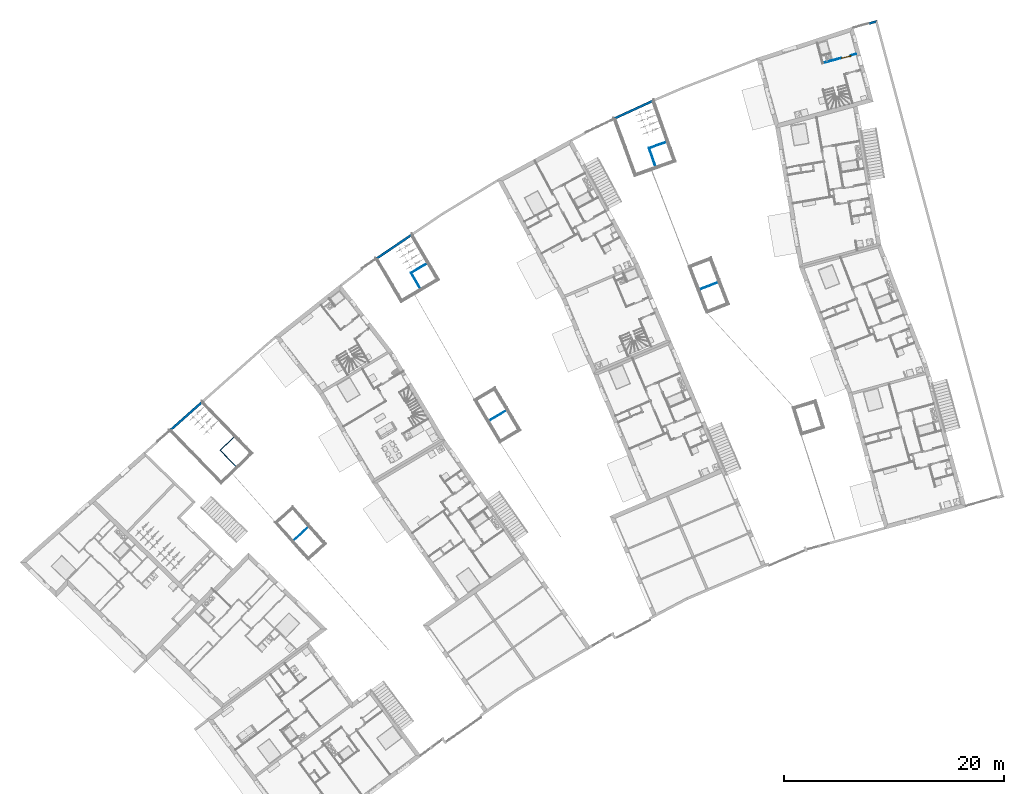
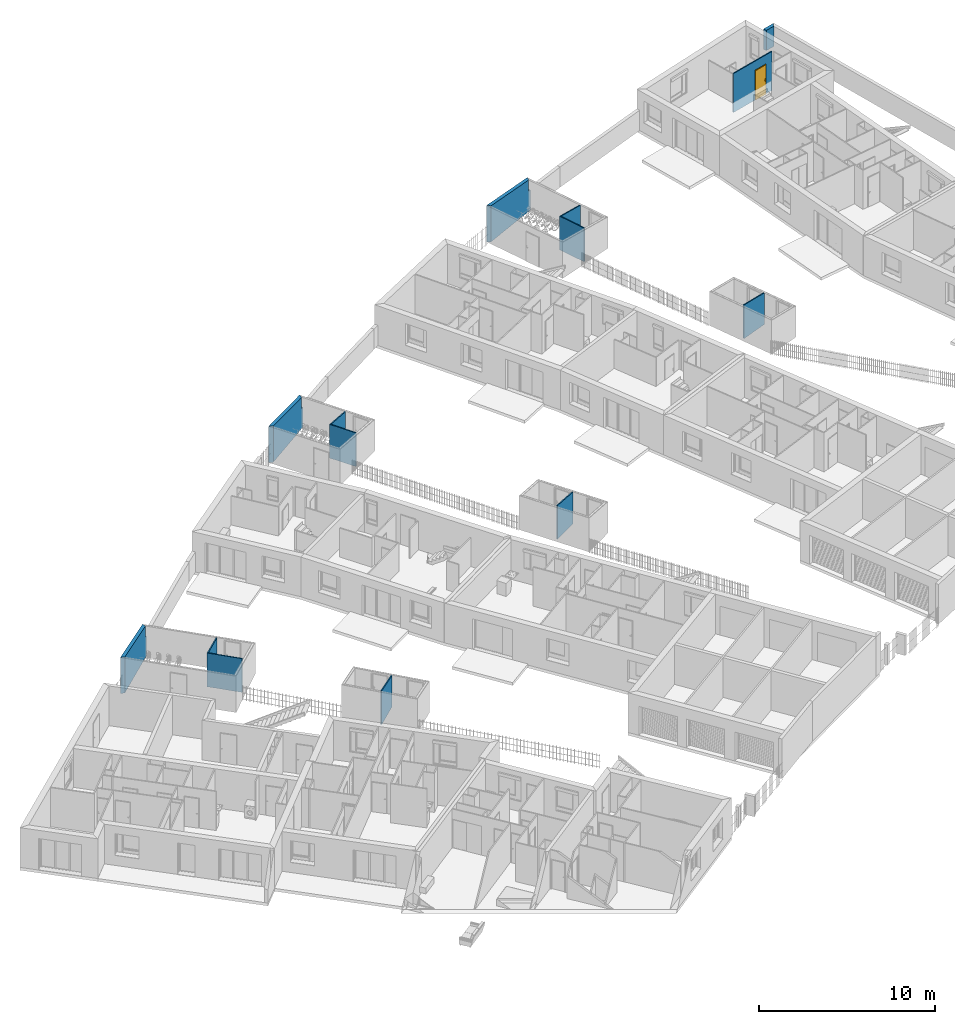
# One storey, part 99 of 195: 14 walls, 1 door, 1 opening.
"""IFC2X3 building model written with IfcOpenShell, lengths in metres."""

from ifc_helpers import new_model, entity, si_unit, converted_unit, derived_unit, money_unit, direction, frame, origin_with_axes, origin_2d_with_axis, place, context, subcontext, project, spatial, polyline, rectangle, outline, extrude, boolean, faceted_brep, source, transform, mapped, material, layer, layer_set, layer_usage, type_object, element, fill, save


model = new_model("IFC2X3")

# Units and contexts
model_context = context("Model", 3, precision=1e-05, world=origin_with_axes(), true_north=direction((0.0, 1.0)))
body_context = subcontext(model_context, "Body", "Model", "MODEL_VIEW")
ifc_project = project(units=[si_unit("LENGTHUNIT", "METRE"), si_unit("AREAUNIT", "SQUARE_METRE"), si_unit("VOLUMEUNIT", "CUBIC_METRE"), converted_unit("PLANEANGLEUNIT", "DEGREE", entity("IfcPlaneAngleMeasure", 0.0174532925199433), si_unit("PLANEANGLEUNIT", "RADIAN"), dimensions=[0, 0, 0, 0, 0, 0, 0]), money_unit("CHF"), converted_unit("TIMEUNIT", "Year", entity("IfcTimeMeasure", 31557600.0), si_unit("TIMEUNIT", "SECOND"), dimensions=[0, 0, 1, 0, 0, 0, 0]), si_unit("MASSUNIT", "GRAM", prefix="KILO"), si_unit("THERMODYNAMICTEMPERATUREUNIT", "DEGREE_CELSIUS"), si_unit("LUMINOUSINTENSITYUNIT", "LUMEN"), si_unit("ENERGYUNIT", "JOULE", prefix="MEGA"), derived_unit("THERMALCONDUCTANCEUNIT", [(si_unit("POWERUNIT", "WATT"), 1), (si_unit("LENGTHUNIT", "METRE"), -1), (si_unit("THERMODYNAMICTEMPERATUREUNIT", "KELVIN"), -1)]), derived_unit("SPECIFICHEATCAPACITYUNIT", [(si_unit("ENERGYUNIT", "JOULE"), 1), (si_unit("MASSUNIT", "GRAM", prefix="KILO"), -1), (si_unit("THERMODYNAMICTEMPERATUREUNIT", "KELVIN"), -1)]), derived_unit("MASSDENSITYUNIT", [(si_unit("MASSUNIT", "GRAM", prefix="KILO"), 1), (si_unit("VOLUMEUNIT", "CUBIC_METRE"), -1)])], contexts=[model_context])

# Site, building, storey
site_placement = place(None, origin_with_axes())
site = spatial("IfcSite", under=ifc_project, at=site_placement, Name="Site", CompositionType="ELEMENT")
building_placement = place(site_placement, origin_with_axes())
building = spatial("IfcBuilding", under=site, at=building_placement, Name="Bâtiment", CompositionType="ELEMENT")
storey_placement = place(building_placement, origin_with_axes())
storey = spatial("IfcBuildingStorey", under=building, at=storey_placement, Name="rdc", CompositionType="ELEMENT", Elevation=0.0)

# Walls
ifc_material_1 = material(Name="Hachure solide 268963992")
wall_type_1 = type_object("IfcWallType", Name="Cloison 70 0826278243 70", PredefinedType="NOTDEFINED")
wall_1_placement = place(storey_placement, frame((9546.806735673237, -1036.15701853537, 57.7), z_axis=(0.0, 0.0, 1.0), x_axis=(0.5069461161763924, -0.8619777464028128, 0.0)))
element("IfcWall", 1, at=wall_1_placement, inside=storey, type_object=wall_type_1, material=ifc_material_1, Name="Mur-152", context=body_context, shape_type="CSG", body=[
    boolean("DIFFERENCE", extrude(outline(polyline([(-0.07000000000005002, -0.06999999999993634), (1.810801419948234, -0.07000000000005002), (1.810801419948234, 0.0), (-0.07000000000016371, 0.0), (-0.07000000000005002, -0.06999999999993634)])), origin_with_axes(), (0.0, 0.0, 1.0), 2.7), faceted_brep([(0.0, 0.0, 2.324891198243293), (0.0, 0.0, 0.0), (-0.0700000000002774, 0.0, 0.0), (-0.0700000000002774, 0.0, 2.700000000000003), (1.81080141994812, 0.0, 2.700000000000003), (1.81080141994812, 0.0, 0.0), (1.650801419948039, 0.0, 0.0), (1.650801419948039, 0.0, 2.324891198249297), (-0.06999999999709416, -0.07000000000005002, 2.33101540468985), (-0.06999999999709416, -0.07000000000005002, 0.0), (-0.07000000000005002, -0.06999999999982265, 2.700000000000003), (1.810801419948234, -0.07000000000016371, 2.700000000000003), (1.810801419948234, -0.07000000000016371, 0.0), (1.650801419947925, -0.07000000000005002, 0.0), (1.650801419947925, -0.07000000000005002, 2.33101540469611)], [[[0, 1, 2, 3, 4, 5, 6, 7]], [[1, 0, 8, 9]], [[1, 9, 2]], [[9, 8, 10, 3, 2]], [[3, 10, 11, 4]], [[11, 12, 5, 4]], [[13, 6, 5, 12]], [[7, 6, 13, 14]], [[0, 7, 14, 8]], [[14, 13, 12, 11, 10, 8]]])),
])
wall_2_placement = place(storey_placement, frame((9568.396420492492, -1024.857140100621, 57.7), z_axis=(0.0, 0.0, 1.0), x_axis=(0.3352868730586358, -0.9421160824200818, 0.0)))
element("IfcWall", 2, at=wall_2_placement, inside=storey, type_object=wall_type_1, material=ifc_material_1, Name="Mur-150", context=body_context, shape_type="CSG", body=[
    boolean("DIFFERENCE", extrude(outline(polyline([(-0.06999999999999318, -0.07000000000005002), (1.923061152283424, -0.07000000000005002), (1.923061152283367, 0.0), (-0.06999999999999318, 0.0), (-0.06999999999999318, -0.07000000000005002)])), origin_with_axes(), (0.0, 0.0, 1.0), 2.7), faceted_brep([(0.0, 0.0, 2.325733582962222), (0.0, 0.0, 0.0), (-0.07000000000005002, 0.0, 0.0), (-0.07000000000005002, 0.0, 2.700000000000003), (1.92306115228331, 0.0, 2.700000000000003), (1.92306115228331, 0.0, 0.0), (1.763061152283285, 0.0, 0.0), (1.763061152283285, 0.0, 2.325733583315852), (-0.06999999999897, -0.07000000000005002, 2.331857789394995), (-0.06999999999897, -0.07000000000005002, 0.0), (-0.07000000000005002, -0.07000000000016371, 2.700000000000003), (1.923061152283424, -0.07000000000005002, 2.700000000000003), (1.923061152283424, -0.07000000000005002, 0.0), (1.763061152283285, -0.0700000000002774, 0.0), (1.763061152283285, -0.0700000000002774, 2.331857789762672)], [[[0, 1, 2, 3, 4, 5, 6, 7]], [[1, 0, 8, 9]], [[1, 9, 2]], [[9, 8, 10, 3, 2]], [[3, 10, 11, 4]], [[11, 12, 5, 4]], [[13, 6, 5, 12]], [[7, 6, 13, 14]], [[0, 7, 14, 8]], [[14, 13, 12, 11, 10, 8]]])),
])
wall_3_placement = place(storey_placement, frame((9548.389693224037, -1035.226049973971, 57.7), z_axis=(0.0, 0.0, 1.0), x_axis=(-0.861977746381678, -0.5069461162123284, 0.0)))
element("IfcWall", 3, at=wall_3_placement, inside=storey, type_object=wall_type_1, material=ifc_material_1, Name="Mur-151", context=body_context, shape_type="CSG", body=[
    boolean("DIFFERENCE", extrude(outline(polyline([(0.0, -0.06999999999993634), (1.906425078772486, -0.06999999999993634), (1.906425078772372, 0.0), (0.0, 0.0), (0.0, -0.06999999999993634)])), origin_with_axes(), (0.0, 0.0, 1.0), 2.7), faceted_brep([(1.836425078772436, 0.0, 0.0), (1.836425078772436, 0.0, 2.324891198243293), (0.1600000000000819, 0.0, 2.178223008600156), (0.1600000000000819, 0.0, 0.0), (0.0, 0.0, 0.0), (0.0, 0.0, 2.700000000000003), (1.906425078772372, 0.0, 2.700000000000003), (1.906425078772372, 0.0, 0.0), (1.906425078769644, -0.06999999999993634, 0.0), (1.906425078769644, -0.06999999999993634, 2.33101540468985), (0.1600000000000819, -0.06999999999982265, 2.178223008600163), (0.1600000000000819, -0.06999999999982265, 0.0), (0.0, -0.06999999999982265, 0.0), (0.0, -0.06999999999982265, 2.700000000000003), (1.906425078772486, -0.06999999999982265, 2.700000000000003)], [[[0, 1, 2, 3, 4, 5, 6, 7]], [[1, 0, 8, 9]], [[2, 1, 9, 10]], [[3, 2, 10, 11]], [[3, 11, 12, 4]], [[5, 4, 12, 13]], [[5, 13, 14, 6]], [[9, 8, 7, 6, 14]], [[8, 0, 7]], [[10, 9, 14, 13, 12, 11]]])),
])
wall_4_placement = place(storey_placement, frame((9570.135617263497, -1024.238182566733, 57.7), z_axis=(0.0, 0.0, 1.0), x_axis=(-0.9421160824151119, -0.3352868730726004, 0.0)))
element("IfcWall", 4, at=wall_4_placement, inside=storey, type_object=wall_type_1, material=ifc_material_1, Name="Mur-149", context=body_context, shape_type="CSG", body=[
    boolean("DIFFERENCE", extrude(outline(polyline([(0.0, -0.06999999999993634), (1.916053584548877, -0.06999999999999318), (1.916053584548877, 0.0), (0.0, 0.0), (0.0, -0.06999999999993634)])), origin_with_axes(), (0.0, 0.0, 1.0), 2.7), faceted_brep([(1.846053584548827, 0.0, 0.0), (1.846053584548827, 0.0, 2.325733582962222), (0.1599999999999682, 0.0, 2.178223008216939), (0.1599999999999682, 0.0, 0.0), (0.0, 0.0, 0.0), (0.0, 0.0, 2.700000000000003), (1.916053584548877, 0.0, 2.700000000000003), (1.916053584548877, 0.0, 0.0), (1.916053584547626, -0.06999999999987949, 0.0), (1.916053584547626, -0.06999999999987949, 2.331857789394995), (0.1599999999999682, -0.06999999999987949, 2.178223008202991), (0.1599999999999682, -0.06999999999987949, 0.0), (0.0, -0.06999999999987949, 0.0), (0.0, -0.06999999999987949, 2.700000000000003), (1.916053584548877, -0.06999999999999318, 2.700000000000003)], [[[0, 1, 2, 3, 4, 5, 6, 7]], [[1, 0, 8, 9]], [[2, 1, 9, 10]], [[3, 2, 10, 11]], [[3, 11, 12, 4]], [[5, 4, 12, 13]], [[5, 13, 14, 6]], [[9, 8, 7, 6, 14]], [[8, 0, 7]], [[10, 9, 14, 13, 12, 11]]])),
])
wall_5_placement = place(storey_placement, frame((9574.832864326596, -1036.963387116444, 57.7), z_axis=(0.0, 0.0, 1.0), x_axis=(-0.9332123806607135, -0.3593252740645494, 0.0)))
element("IfcWall", 5, at=wall_5_placement, inside=storey, type_object=wall_type_1, material=ifc_material_1, Name="Mur-149", context=body_context, shape_type="CSG", body=[
    boolean("DIFFERENCE", extrude(outline(polyline([(0.0, -0.06999999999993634), (1.973108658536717, -0.06999999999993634), (1.973108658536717, 0.0), (0.0, 0.0), (0.0, -0.06999999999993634)])), origin_with_axes(), (0.0, 0.0, 1.0), 2.7), faceted_brep([(0.1600000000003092, 0.0, 2.178223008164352), (0.1600000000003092, 0.0, 0.0), (0.0, 0.0, 0.0), (0.0, 0.0, 2.700000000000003), (1.97310865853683, 0.0, 2.700000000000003), (1.97310865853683, 0.0, 2.336849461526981), (0.1600000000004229, -0.06999999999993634, 2.178223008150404), (0.1600000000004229, -0.06999999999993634, 0.0), (0.0, -0.06999999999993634, 0.0), (0.0, -0.06999999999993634, 2.700000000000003), (1.97310865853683, -0.06999999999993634, 2.700000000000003), (1.973108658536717, -0.06999999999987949, 2.336849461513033)], [[[0, 1, 2, 3, 4, 5]], [[1, 0, 6, 7]], [[1, 7, 8, 2]], [[3, 2, 8, 9]], [[3, 9, 10, 4]], [[11, 5, 4, 10]], [[0, 5, 11, 6]], [[6, 11, 10, 9, 8, 7]]])),
])
wall_6_placement = place(storey_placement, frame((9555.585908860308, -1048.562580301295, 57.7), z_axis=(0.0, 0.0, 1.0), x_axis=(-0.8592615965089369, -0.5115364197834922, 0.0)))
element("IfcWall", 6, at=wall_6_placement, inside=storey, type_object=wall_type_1, material=ifc_material_1, Name="Mur-149", context=body_context, shape_type="CSG", body=[
    boolean("DIFFERENCE", extrude(outline(polyline([(0.0, -0.07000000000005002), (1.973108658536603, -0.07000000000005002), (1.973108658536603, 0.0), (0.0, 0.0), (0.0, -0.07000000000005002)])), origin_with_axes(), (0.0, 0.0, 1.0), 2.7), faceted_brep([(0.1600000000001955, 0.0, 2.178394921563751), (0.1600000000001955, 0.0, 0.0), (0.0, 0.0, 0.0), (0.0, 0.0, 2.700000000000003), (1.973108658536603, 0.0, 2.700000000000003), (1.973108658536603, 0.0, 2.337021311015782), (0.1600000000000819, -0.06999999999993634, 2.178400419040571), (0.1600000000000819, -0.06999999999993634, 0.0), (0.0, -0.07000000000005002, 0.0), (0.0, -0.07000000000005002, 2.700000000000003), (1.973108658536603, -0.06999999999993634, 2.700000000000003), (1.973108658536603, -0.06999999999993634, 2.337026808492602)], [[[0, 1, 2, 3, 4, 5]], [[1, 0, 6, 7]], [[1, 7, 8, 2]], [[3, 2, 8, 9]], [[3, 9, 10, 4]], [[11, 5, 4, 10]], [[0, 5, 11, 6]], [[6, 11, 10, 9, 8, 7]]])),
])

# Wall, opening, door
ifc_layer_1 = layer(ifc_material_1, 0.07, ventilated="UNKNOWN")
ifc_layer_set_1 = layer_set([ifc_layer_1], Name="Cloison 70 0826278243")
ifc_layer_usage_1 = layer_usage(ifc_layer_set_1, "AXIS2", "POSITIVE", 0.0)
wall_7_placement = place(storey_placement, frame((9587.495279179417, -1016.154744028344, 57.0), z_axis=(0.0, 0.0, 1.0), x_axis=(-0.9648682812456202, -0.2627340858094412, 0.0)))
wall_7 = element("IfcWallStandardCase", 7, at=wall_7_placement, inside=storey, type_object=wall_type_1, material=ifc_layer_usage_1, Name="Mur-149", context=body_context, shape_type="SweptSolid", body=[
    extrude(outline(polyline([(0.3799999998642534, 0.0), (3.488950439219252, 0.0), (3.488950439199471, 0.06999999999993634), (0.3799999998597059, 0.06999999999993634), (0.3799999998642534, 0.0)])), origin_with_axes(), (0.0, 0.0, 1.0), 2.7),
])
opening_placement = place(wall_7_placement, frame((1.308950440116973, 0.0, 0.0), z_axis=(0.0, 0.0, 1.0), x_axis=(1.0, 0.0, 0.0)))
opening = element("IfcOpeningElement", 8, at=opening_placement, cuts=wall_7, Name="Por-299", context=body_context, shape_type="SweptSolid", body=[
    extrude(rectangle(XDim=0.9099999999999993, YDim=2.079999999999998, at=origin_2d_with_axis()), frame((0.0, -0.07000000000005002, 1.039999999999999), z_axis=(0.0, 1.0, 0.0), x_axis=(1.0, 0.0, 0.0)), (0.0, 0.0, 1.0), 0.14),
])
door_style = type_object("IfcDoorStyle", Name="Porte_1v", ConstructionType="NOTDEFINED", OperationType="NOTDEFINED", ParameterTakesPrecedence=False, Sizeable=False)
shared_shape = source(origin_with_axes(), body_context, "Body", "Brep", [
    faceted_brep([(0.455, 0.0, 0.0), (0.415, 0.0, 0.0), (0.415, 0.0, 2.04), (-0.415, 0.0, 2.04), (-0.415, 0.0, 0.0), (-0.455, 0.0, 0.0), (-0.455, 0.0, 2.08), (0.455, 0.0, 2.08), (0.455, -0.07, 0.0), (0.4, -0.07, 0.0), (0.4, -0.015, 0.0), (0.415, -0.015, 0.0), (0.415, -0.015, 2.04), (-0.415, -0.015, 2.04), (-0.415, -0.015, 0.0), (-0.4, -0.015, 0.0), (-0.4, -0.07, 0.0), (-0.455, -0.07, 0.0), (-0.455, -0.07, 2.08), (0.455, -0.07, 2.08), (-0.4, -0.07, 2.025), (0.4, -0.07, 2.025), (0.4, -0.015, 2.025), (-0.4, -0.015, 2.025)], [[[0, 1, 2, 3, 4, 5, 6, 7]], [[0, 8, 9, 10, 11, 1]], [[1, 11, 12, 2]], [[2, 12, 13, 3]], [[3, 13, 14, 4]], [[5, 4, 14, 15, 16, 17]], [[18, 6, 5, 17]], [[19, 7, 6, 18]], [[8, 0, 7, 19]], [[9, 8, 19, 18, 17, 16, 20, 21]], [[10, 9, 21, 22]], [[11, 10, 22, 23, 15, 14, 13, 12]], [[23, 20, 16, 15]], [[22, 21, 20, 23]]]),
    faceted_brep([(-0.35, -0.015, 0.9), (-0.39, -0.015, 0.9), (-0.39, -0.015, 1.1), (-0.35, -0.015, 1.1), (-0.35, -0.025, 0.9), (-0.39, -0.025, 0.9), (-0.39, -0.025, 1.1), (-0.35, -0.025, 1.1)], [[[0, 1, 2, 3]], [[1, 0, 4, 5]], [[2, 1, 5, 6]], [[3, 2, 6, 7]], [[0, 3, 7, 4]], [[5, 4, 7, 6]]]),
    faceted_brep([(-0.28, -0.025, 1.0), (-0.38, -0.025, 1.0), (-0.38, -0.025, 1.02), (-0.28, -0.025, 1.02), (-0.28, -0.045, 1.0), (-0.38, -0.045, 1.0), (-0.38, -0.045, 1.02), (-0.28, -0.045, 1.02)], [[[0, 1, 2, 3]], [[1, 0, 4, 5]], [[2, 1, 5, 6]], [[3, 2, 6, 7]], [[0, 3, 7, 4]], [[5, 4, 7, 6]]]),
    faceted_brep([(-0.35, 0.035, 0.9), (-0.39, 0.035, 0.9), (-0.39, 0.035, 1.1), (-0.35, 0.035, 1.1), (-0.35, 0.025, 0.9), (-0.39, 0.025, 0.9), (-0.39, 0.025, 1.1), (-0.35, 0.025, 1.1)], [[[0, 1, 2, 3]], [[1, 0, 4, 5]], [[2, 1, 5, 6]], [[3, 2, 6, 7]], [[0, 3, 7, 4]], [[5, 4, 7, 6]]]),
    faceted_brep([(-0.28, 0.05500000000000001, 1.0), (-0.38, 0.05500000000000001, 1.0), (-0.38, 0.05500000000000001, 1.02), (-0.28, 0.05500000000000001, 1.02), (-0.28, 0.035, 1.0), (-0.38, 0.035, 1.0), (-0.38, 0.035, 1.02), (-0.28, 0.035, 1.02)], [[[0, 1, 2, 3]], [[1, 0, 4, 5]], [[2, 1, 5, 6]], [[3, 2, 6, 7]], [[0, 3, 7, 4]], [[5, 4, 7, 6]]]),
    faceted_brep([(-0.415, 0.025, 0.0), (0.415, 0.025, 0.0), (0.415, -0.015, 0.0), (-0.415, -0.015, 0.0), (-0.415, 0.025, 2.04), (0.415, 0.025, 2.04), (0.415, -0.015, 2.04), (-0.415, -0.015, 2.04)], [[[0, 1, 2, 3]], [[0, 4, 5, 1]], [[1, 5, 6, 2]], [[3, 2, 6, 7]], [[4, 0, 3, 7]], [[5, 4, 7, 6]]]),
])
door_placement = place(opening_placement, frame((-0.4150000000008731, 0.0, 0.0), z_axis=(0.0, 0.0, 1.0), x_axis=(1.0, 0.0, 0.0)))
door = element("IfcDoor", 9, at=door_placement, inside=storey, type_object=door_style, Name="Por-299", OverallHeight=2.04, OverallWidth=0.83, context=body_context, shape_type="MappedRepresentation", body=[
    mapped(shared_shape, transform((0.4150000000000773, 0.06999999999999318, 0.0))),
])
fill(opening, door)

# Walls
wall_8_placement = place(storey_placement, frame((9537.60457958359, -1059.113146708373, 57.7), z_axis=(0.0, 0.0, 1.0), x_axis=(-0.747156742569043, -0.6646478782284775, 0.0)))
element("IfcWall", 10, at=wall_8_placement, inside=storey, type_object=wall_type_1, material=ifc_material_1, Name="Mur-149", context=body_context, shape_type="CSG", body=[
    boolean("DIFFERENCE", extrude(outline(polyline([(0.0, -0.06999999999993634), (2.19310865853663, -0.06999999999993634), (2.19310865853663, 0.0), (0.0, 0.0), (0.0, -0.06999999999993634)])), origin_with_axes(), (0.0, 0.0, 1.0), 2.699999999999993), faceted_brep([(2.033108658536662, 0.0, 0.0), (2.033108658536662, 0.0, 2.342270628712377), (0.1600000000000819, 0.0, 2.178394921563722), (0.1600000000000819, 0.0, 0.0), (0.0, 0.0, 0.0), (0.0, 0.0, 2.700000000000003), (2.193108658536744, 0.0, 2.700000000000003), (2.193108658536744, 0.0, 0.0), (2.033108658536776, -0.06999999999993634, 0.0), (2.033108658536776, -0.06999999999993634, 2.342276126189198), (0.1600000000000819, -0.06999999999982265, 2.178400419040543), (0.1600000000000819, -0.06999999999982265, 0.0), (0.0, -0.06999999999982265, 0.0), (0.0, -0.06999999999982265, 2.700000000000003), (2.19310865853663, -0.06999999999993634, 2.700000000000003), (2.19310865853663, -0.06999999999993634, 0.0)], [[[0, 1, 2, 3, 4, 5, 6, 7]], [[1, 0, 8, 9]], [[2, 1, 9, 10]], [[3, 2, 10, 11]], [[3, 11, 12, 4]], [[5, 4, 12, 13]], [[5, 13, 14, 6]], [[14, 15, 7, 6]], [[8, 0, 7, 15]], [[9, 8, 15, 14, 13, 12, 11, 10]]])),
])
wall_9_placement = place(storey_placement, frame((9530.856466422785, -1050.918033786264, 57.7), z_axis=(0.0, 0.0, 1.0), x_axis=(-0.7170210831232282, -0.697051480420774, 0.0)))
element("IfcWall", 11, at=wall_9_placement, inside=storey, type_object=wall_type_1, material=ifc_material_1, Name="Mur-153", context=body_context, shape_type="CSG", body=[
    boolean("DIFFERENCE", extrude(outline(polyline([(-1.988382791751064e-10, -0.07000000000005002), (1.988115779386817, -0.06999999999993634), (1.988115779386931, 0.0), (-1.988382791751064e-10, 0.0), (-1.988382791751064e-10, -0.07000000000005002)])), origin_with_axes(), (0.0, 0.0, 1.0), 2.7), faceted_brep([(1.918115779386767, 0.0, 0.0), (1.918115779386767, 0.0, 2.332048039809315), (0.1599999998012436, 0.0, 2.178232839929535), (0.1599999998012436, 0.0, 0.0), (-1.987245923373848e-10, 0.0, 0.0), (-1.987245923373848e-10, 0.0, 2.700000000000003), (1.988115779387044, 0.0, 2.700000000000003), (1.988115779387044, 0.0, 0.0), (1.988115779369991, -0.06999999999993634, 0.0), (1.988115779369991, -0.06999999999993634, 2.338172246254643), (0.1599999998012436, -0.07000000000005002, 2.178232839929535), (0.1599999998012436, -0.07000000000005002, 0.0), (-1.987245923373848e-10, -0.07000000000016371, 0.0), (-1.987245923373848e-10, -0.07000000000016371, 2.700000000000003), (1.988115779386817, -0.06999999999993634, 2.700000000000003)], [[[0, 1, 2, 3, 4, 5, 6, 7]], [[1, 0, 8, 9]], [[2, 1, 9, 10]], [[3, 2, 10, 11]], [[3, 11, 12, 4]], [[5, 4, 12, 13]], [[5, 13, 14, 6]], [[9, 8, 7, 6, 14]], [[8, 0, 7]], [[10, 9, 14, 13, 12, 11]]])),
])
wall_10_placement = place(storey_placement, frame((9529.481136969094, -1052.255059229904, 57.7), z_axis=(0.0, 0.0, 1.0), x_axis=(0.6970514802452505, -0.7170210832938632, 0.0)))
element("IfcWall", 12, at=wall_10_placement, inside=storey, type_object=wall_type_1, material=ifc_material_1, Name="Mur-154", context=body_context, shape_type="CSG", body=[
    boolean("DIFFERENCE", extrude(outline(polyline([(-0.07000000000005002, -0.07000000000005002), (1.994600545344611, -0.07000000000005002), (1.994600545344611, 0.0), (-0.07000000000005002, 0.0), (-0.07000000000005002, -0.07000000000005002)])), origin_with_axes(), (0.0, 0.0, 1.0), 2.7), faceted_brep([(1.994600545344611, -0.06999999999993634, 2.338172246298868), (1.994600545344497, 0.0, 2.332048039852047), (1.994600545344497, 0.0, 2.700000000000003), (1.994600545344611, -0.06999999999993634, 2.700000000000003), (0.0, 0.0, 2.332048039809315), (-0.06999999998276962, -0.07000000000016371, 2.338172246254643), (0.0, 0.0, 0.0), (-0.07000000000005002, 0.0, 0.0), (-0.07000000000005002, 0.0, 2.700000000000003), (-0.07000000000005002, -0.07000000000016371, 2.700000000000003), (-0.06999999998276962, -0.07000000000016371, 0.0)], [[[0, 1, 2, 3]], [[4, 1, 0, 5]], [[4, 6, 7, 8, 2, 1]], [[8, 9, 3, 2]], [[5, 0, 3, 9]], [[6, 4, 5, 10]], [[6, 10, 7]], [[10, 5, 9, 8, 7]]])),
])
ifc_material_2 = material(Name="Parpaing 312445824")
wall_type_2 = type_object("IfcWallType", Name="Beton  22 0836643198 220", PredefinedType="NOTDEFINED")
wall_11_placement = place(storey_placement, frame((9527.767555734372, -1047.740629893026, 57.7), z_axis=(0.0, 0.0, 1.0), x_axis=(-0.7477871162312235, -0.6639385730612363, 0.0)))
element("IfcWall", 13, at=wall_11_placement, inside=storey, type_object=wall_type_2, material=ifc_material_2, Name="Mur-108", context=body_context, shape_type="CSG", body=[
    boolean("DIFFERENCE", extrude(outline(polyline([(-0.009951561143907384, 0.0), (4.004090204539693, 0.0), (4.004090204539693, 0.2199999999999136), (-0.009951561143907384, 0.2199999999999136), (-0.009951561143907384, 0.0)])), origin_with_axes(), (0.0, 0.0, 1.0), 2.75), faceted_brep([(0.1502120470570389, 0.2199999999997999, 2.178232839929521), (0.1502120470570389, 0.2199999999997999, 1.399999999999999), (0.0, 0.2200000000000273, 1.399999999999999), (0.0, 0.2200000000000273, 0.0), (-0.009951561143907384, 0.2199999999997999, 0.0), (-0.009951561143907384, 0.2199999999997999, 2.75), (4.004090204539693, 0.2199999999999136, 2.75), (4.004090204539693, 0.2199999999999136, 0.0), (3.833975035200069, 0.2199999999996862, 0.0), (3.833975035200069, 0.2199999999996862, 2.50019112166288), (0.0, 0.0, 2.164234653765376), (0.0, 0.0, 1.399999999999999), (0.0, 0.0, 0.0), (-0.009951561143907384, 0.0, 0.0), (-0.009951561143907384, 0.0, 2.75), (4.004090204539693, 0.0, 2.75), (4.00409020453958, 0.0, 2.514189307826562), (4.00409020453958, 0.0, 0.0)], [[[0, 1, 2, 3, 4, 5, 6, 7, 8, 9]], [[1, 0, 10, 11]], [[2, 1, 11]], [[3, 2, 11, 12]], [[3, 12, 13, 4]], [[5, 4, 13, 14]], [[5, 14, 15, 6]], [[16, 17, 7, 6, 15]], [[17, 8, 7]], [[9, 8, 17, 16]], [[0, 9, 16, 10]], [[10, 16, 15, 14, 13, 12, 11]]])),
])
wall_12_placement = place(storey_placement, frame((9546.817992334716, -1032.553633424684, 57.7), z_axis=(0.0, 0.0, 1.0), x_axis=(-0.8280009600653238, -0.560726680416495, 0.0)))
element("IfcWall", 14, at=wall_12_placement, inside=storey, type_object=wall_type_2, material=ifc_material_2, Name="Mur-108", context=body_context, shape_type="CSG", body=[
    boolean("DIFFERENCE", extrude(outline(polyline([(0.0, 0.0), (4.022126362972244, 0.0), (4.022126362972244, 0.2200000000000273), (0.0, 0.2200000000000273), (0.0, 0.0)])), origin_with_axes(), (0.0, 0.0, 1.0), 2.75), faceted_brep([(0.174340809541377, 0.2200000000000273, 2.178223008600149), (0.174340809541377, 0.2200000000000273, 1.399999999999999), (0.01401641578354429, 0.2200000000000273, 1.399999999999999), (0.01401641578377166, 0.2200000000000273, 0.0), (0.0, 0.2200000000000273, 0.0), (0.0, 0.2200000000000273, 2.75), (4.022126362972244, 0.2200000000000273, 2.75), (4.022126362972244, 0.2200000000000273, 0.0), (3.861801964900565, 0.2200000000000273, 0.0), (3.861801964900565, 0.2200000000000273, 2.500181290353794), (-1.07454525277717e-08, 7.276867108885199e-09, 2.164224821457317), (-1.07454525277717e-08, 7.276867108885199e-09, 1.399999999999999), (-1.07454525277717e-08, 7.276867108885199e-09, 0.0), (0.0, 0.0, 2.75), (4.022126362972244, 0.0, 2.75), (4.022126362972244, 0.0, 0.0), (4.00810995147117, 0.0, 0.0), (4.00810995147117, 0.0, 2.514179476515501)], [[[0, 1, 2, 3, 4, 5, 6, 7, 8, 9]], [[10, 11, 1, 0]], [[2, 1, 11]], [[3, 2, 11, 12]], [[3, 12, 4]], [[11, 10, 13, 5, 4, 12]], [[5, 13, 14, 6]], [[14, 15, 7, 6]], [[16, 8, 7, 15]], [[9, 8, 16, 17]], [[17, 10, 0, 9]], [[17, 16, 15, 14, 13, 10]]])),
])
wall_13_placement = place(storey_placement, frame((9568.764979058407, -1020.386852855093, 57.7), z_axis=(0.0, 0.0, 1.0), x_axis=(-0.9088153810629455, -0.4171985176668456, 0.0)))
element("IfcWall", 15, at=wall_13_placement, inside=storey, type_object=wall_type_2, material=ifc_material_2, Name="Mur-108", context=body_context, shape_type="CSG", body=[
    boolean("DIFFERENCE", extrude(outline(polyline([(0.0, 0.0), (4.03368466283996, 0.0), (4.033684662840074, 0.2199999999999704), (0.0, 0.2200000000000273), (0.0, 0.0)])), origin_with_axes(), (0.0, 0.0, 1.0), 2.75), faceted_brep([(0.180138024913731, 0.2199999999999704, 2.178223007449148), (0.180138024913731, 0.2199999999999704, 1.399999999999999), (0.01951009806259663, 0.2199999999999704, 1.399999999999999), (0.01951009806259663, 0.2199999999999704, 0.0), (0.0, 0.2200000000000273, 0.0), (0.0, 0.2200000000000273, 2.75), (4.033684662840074, 0.2199999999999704, 2.75), (4.033684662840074, 0.2199999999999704, 0.0), (3.873150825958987, 0.2199999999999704, 0.0), (3.873150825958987, 0.2199999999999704, 2.500056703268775), (0.0, 0.0, 2.164224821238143), (0.0, 0.0, 1.399999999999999), (0.0, 0.0, 0.0), (0.0, 0.0, 2.75), (4.033684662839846, 0.0, 2.75), (4.033684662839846, 0.0, 0.0), (4.015698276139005, 0.0, 0.0), (4.015698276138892, 0.0, 2.514179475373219)], [[[0, 1, 2, 3, 4, 5, 6, 7, 8, 9]], [[10, 11, 1, 0]], [[2, 1, 11]], [[3, 2, 11, 12]], [[3, 12, 4]], [[11, 10, 13, 5, 4, 12]], [[5, 13, 14, 6]], [[14, 15, 7, 6]], [[16, 8, 7, 15]], [[9, 8, 16, 17]], [[17, 10, 0, 9]], [[17, 16, 15, 14, 13, 10]]])),
])
ifc_material_3 = material(Name="Empty Fill 3000033799")
ifc_layer_2 = layer(ifc_material_3, 0.22, ventilated="UNKNOWN")
ifc_layer_set_2 = layer_set([ifc_layer_2], Name="acrotère 22")
ifc_layer_usage_2 = layer_usage(ifc_layer_set_2, "AXIS2", "NEGATIVE", 0.0)
wall_type_3 = type_object("IfcWallType", Name="acrotère 22 220", PredefinedType="NOTDEFINED")
wall_14_placement = place(storey_placement, frame((9588.259427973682, -1013.420905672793, 57.7), z_axis=(0.0, 0.0, 1.0), x_axis=(0.9644281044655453, 0.2643452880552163, 0.0)))
element("IfcWallStandardCase", 16, at=wall_14_placement, inside=storey, type_object=wall_type_3, material=ifc_layer_usage_2, Name="Mur-108", context=body_context, shape_type="SweptSolid", body=[
    extrude(outline(polyline([(0.0, -0.2200000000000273), (0.6044761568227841, -0.2200000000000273), (0.8261680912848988, 0.0), (0.0, 0.0), (0.0, -0.2200000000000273)])), origin_with_axes(), (0.0, 0.0, 1.0), 1.4),
])

save(model, "model.ifc")
